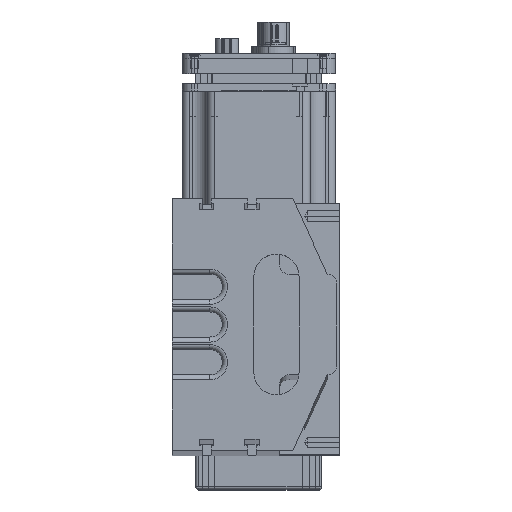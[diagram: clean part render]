
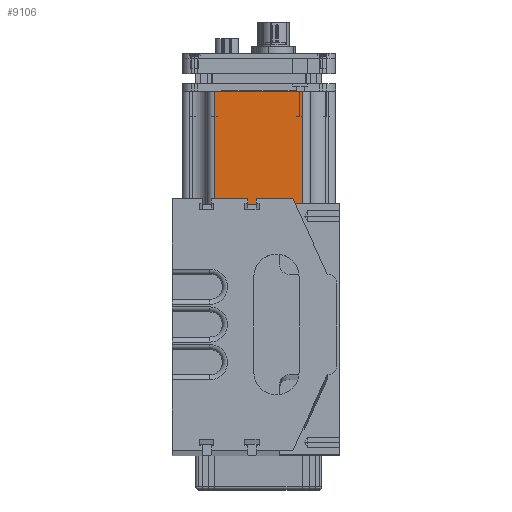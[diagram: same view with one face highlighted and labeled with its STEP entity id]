
A CAD part, top view. The second image highlights one B-rep face of the part: STEP entity #9106.
In plain terms, the highlighted planar face has unit normal (0, 0, 1).
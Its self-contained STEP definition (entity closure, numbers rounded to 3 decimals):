
#547 = VERTEX_POINT ( 'NONE', #12546 ) ;
#581 = EDGE_CURVE ( 'NONE', #40838, #547, #12671, .T. ) ;
#4410 = EDGE_CURVE ( 'NONE', #4461, #40838, #30097, .T. ) ;
#4461 = VERTEX_POINT ( 'NONE', #30186 ) ;
#8067 = VERTEX_POINT ( 'NONE', #37245 ) ;
#8328 = EDGE_CURVE ( 'NONE', #547, #8067, #37706, .T. ) ;
#8627 = VERTEX_POINT ( 'NONE', #38350 ) ;
#8628 = VERTEX_POINT ( 'NONE', #38354 ) ;
#8634 = EDGE_CURVE ( 'NONE', #8627, #8628, #38348, .T. ) ;
#8748 = ORIENTED_EDGE ( 'NONE', *, *, #9362, .F. ) ;
#8752 = EDGE_CURVE ( 'NONE', #8628, #8840, #38604, .T. ) ;
#8840 = VERTEX_POINT ( 'NONE', #38728 ) ;
#9008 = ORIENTED_EDGE ( 'NONE', *, *, #4410, .F. ) ;
#9016 = EDGE_LOOP ( 'NONE', ( #9028, #9046, #9008, #9057, #9030, #9340, #9359, #8748 ) ) ;
#9020 = VERTEX_POINT ( 'NONE', #39112 ) ;
#9028 = ORIENTED_EDGE ( 'NONE', *, *, #8328, .F. ) ;
#9030 = ORIENTED_EDGE ( 'NONE', *, *, #8752, .F. ) ;
#9046 = ORIENTED_EDGE ( 'NONE', *, *, #581, .F. ) ;
#9051 = EDGE_CURVE ( 'NONE', #4461, #8840, #39132, .T. ) ;
#9057 = ORIENTED_EDGE ( 'NONE', *, *, #9051, .T. ) ;
#9106 = ADVANCED_FACE ( 'NONE', ( #39276 ), #39283, .F. ) ;
#9340 = ORIENTED_EDGE ( 'NONE', *, *, #8634, .F. ) ;
#9350 = EDGE_CURVE ( 'NONE', #9020, #8627, #39721, .T. ) ;
#9359 = ORIENTED_EDGE ( 'NONE', *, *, #9350, .F. ) ;
#9362 = EDGE_CURVE ( 'NONE', #8067, #9020, #39779, .T. ) ;
#12546 = CARTESIAN_POINT ( 'NONE',  ( -17.5, 7., 30.5 ) ) ;
#12652 = DIRECTION ( 'NONE',  ( 1., 0., 0. ) ) ;
#12654 = VECTOR ( 'NONE', #12652, 1000. ) ;
#12669 = CARTESIAN_POINT ( 'NONE',  ( -24.5, 7., 30.5 ) ) ;
#12671 = LINE ( 'NONE', #12669, #12654 ) ;
#19856 = CARTESIAN_POINT ( 'NONE',  ( -24.5, 7., 30.5 ) ) ;
#30094 = DIRECTION ( 'NONE',  ( 0., 1., 0. ) ) ;
#30095 = VECTOR ( 'NONE', #30094, 1000. ) ;
#30096 = CARTESIAN_POINT ( 'NONE',  ( -24.5, 7., 30.5 ) ) ;
#30097 = LINE ( 'NONE', #30096, #30095 ) ;
#30186 = CARTESIAN_POINT ( 'NONE',  ( -24.5, 0., 30.5 ) ) ;
#37245 = CARTESIAN_POINT ( 'NONE',  ( -17.5, 94., 30.5 ) ) ;
#37696 = DIRECTION ( 'NONE',  ( 0., 1., 0. ) ) ;
#37697 = VECTOR ( 'NONE', #37696, 1000. ) ;
#37698 = CARTESIAN_POINT ( 'NONE',  ( -17.5, 7., 30.5 ) ) ;
#37706 = LINE ( 'NONE', #37698, #37697 ) ;
#38343 = DIRECTION ( 'NONE',  ( 1., 0., 0. ) ) ;
#38345 = VECTOR ( 'NONE', #38343, 1000. ) ;
#38347 = CARTESIAN_POINT ( 'NONE',  ( -24.5, 7., 30.5 ) ) ;
#38348 = LINE ( 'NONE', #38347, #38345 ) ;
#38350 = CARTESIAN_POINT ( 'NONE',  ( 17.5, 7., 30.5 ) ) ;
#38354 = CARTESIAN_POINT ( 'NONE',  ( 24.5, 7., 30.5 ) ) ;
#38374 = DIRECTION ( 'NONE',  ( 0., -1., 0. ) ) ;
#38601 = DIRECTION ( 'NONE',  ( 0., -1., 0. ) ) ;
#38602 = VECTOR ( 'NONE', #38601, 1000. ) ;
#38603 = CARTESIAN_POINT ( 'NONE',  ( 24.5, 7., 30.5 ) ) ;
#38604 = LINE ( 'NONE', #38603, #38602 ) ;
#38728 = CARTESIAN_POINT ( 'NONE',  ( 24.5, 0., 30.5 ) ) ;
#39112 = CARTESIAN_POINT ( 'NONE',  ( 17.5, 94., 30.5 ) ) ;
#39131 = CARTESIAN_POINT ( 'NONE',  ( -24.5, 0., 30.5 ) ) ;
#39132 = LINE ( 'NONE', #39131, #39190 ) ;
#39189 = DIRECTION ( 'NONE',  ( 1., 0., 0. ) ) ;
#39190 = VECTOR ( 'NONE', #39189, 1000. ) ;
#39230 = DIRECTION ( 'NONE',  ( 0., 0., -1. ) ) ;
#39231 = CARTESIAN_POINT ( 'NONE',  ( -24.5, 7., 30.5 ) ) ;
#39269 = DIRECTION ( 'NONE',  ( -1., 0., 0. ) ) ;
#39276 = FACE_OUTER_BOUND ( 'NONE', #9016, .T. ) ;
#39283 = PLANE ( 'NONE',  #39287 ) ;
#39287 = AXIS2_PLACEMENT_3D ( 'NONE', #39231, #39230, #39269 ) ;
#39719 = VECTOR ( 'NONE', #38374, 1000. ) ;
#39720 = CARTESIAN_POINT ( 'NONE',  ( 17.5, 95.35, 30.5 ) ) ;
#39721 = LINE ( 'NONE', #39720, #39719 ) ;
#39762 = DIRECTION ( 'NONE',  ( 1., 0., 0. ) ) ;
#39763 = VECTOR ( 'NONE', #39762, 1000. ) ;
#39778 = CARTESIAN_POINT ( 'NONE',  ( 26.5, 94., 30.5 ) ) ;
#39779 = LINE ( 'NONE', #39778, #39763 ) ;
#40838 = VERTEX_POINT ( 'NONE', #19856 ) ;
